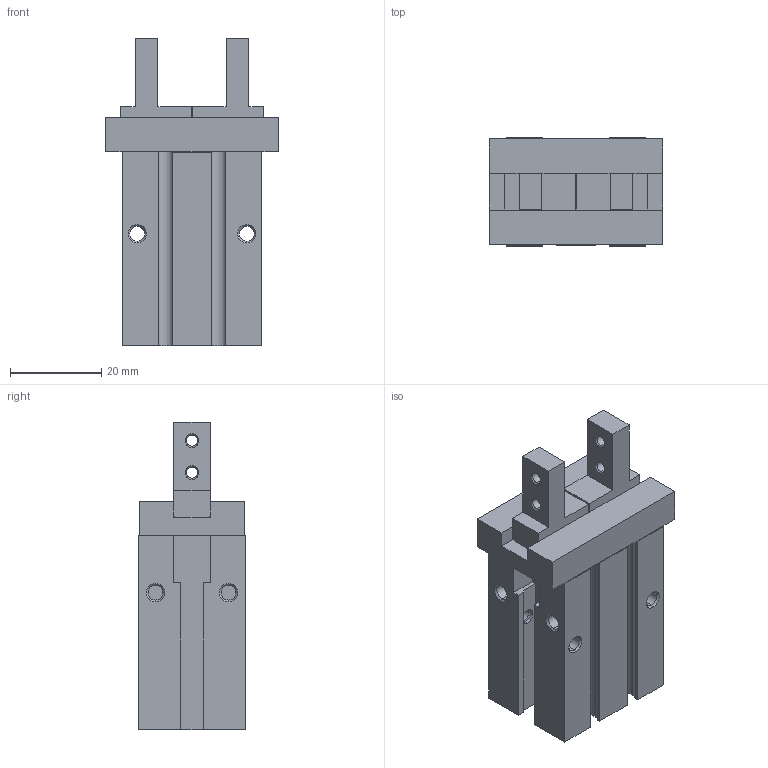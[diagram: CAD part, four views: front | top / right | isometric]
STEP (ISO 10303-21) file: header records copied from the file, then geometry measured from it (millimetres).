
FILE_DESCRIPTION (( 'STEP AP214' ), '1' );
FILE_NAME ('GMHZ2-16D.STEP', '2019-11-12T00:55:35', ( '微软用户' ), ( '微软中国' ), 'SwSTEP 2.0', 'SolidWorks 2016', '' );
FILE_SCHEMA (( 'AUTOMOTIVE_DESIGN' ));
Length unit declared in the file: millimetre
Products named in the file (1): GMHZ2-16D
Bounding box: 38 x 23.6 x 67.3 mm (x, y, z)
Surface area: 12765.2 mm2 (no closed solid volume)
Topology: 0 solids, 7 shells, 226 faces, 594 edges, 386 vertices
Faces by surface type: plane 122, cylinder 56, cone 44, bspline 4
Entity records: 6997 total; most frequent: CARTESIAN_POINT 1279, DIRECTION 1202, ORIENTED_EDGE 1156, EDGE_CURVE 594, AXIS2_PLACEMENT_3D 401, LINE 400, VECTOR 400, VERTEX_POINT 386
